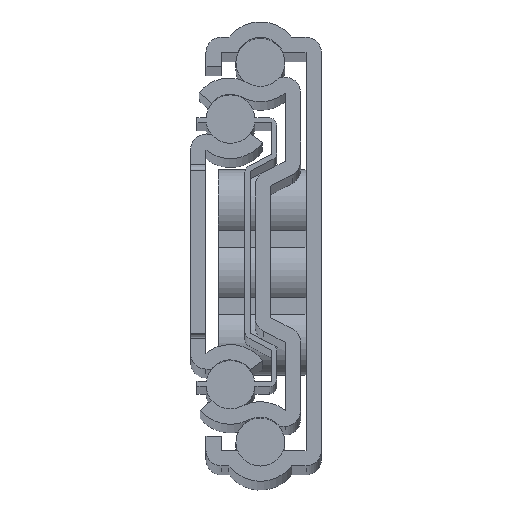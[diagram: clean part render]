
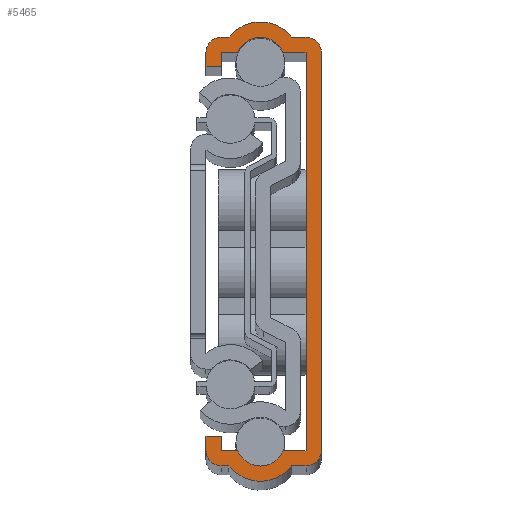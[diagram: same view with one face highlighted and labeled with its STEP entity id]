
A CAD part, top view. The second image highlights one B-rep face of the part: STEP entity #5465.
In plain terms, the highlighted planar face has unit normal (0, 0, 1).
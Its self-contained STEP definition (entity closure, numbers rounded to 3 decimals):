
#215=CIRCLE('',#5840,2.381);
#216=CIRCLE('',#5848,1.488);
#217=CIRCLE('',#5851,3.869);
#218=CIRCLE('',#5854,1.488);
#219=CIRCLE('',#5859,3.869);
#220=CIRCLE('',#5862,1.488);
#221=CIRCLE('',#5866,2.381);
#222=CIRCLE('',#5871,1.488);
#591=FACE_OUTER_BOUND('',#919,.T.);
#919=EDGE_LOOP('',(#4352,#4353,#4354,#4355,#4356,#4357,#4358,#4359,#4360,
#4361,#4362,#4363,#4364,#4365,#4366,#4367,#4368,#4369,#4370,#4371,#4372,
#4373,#4374,#4375));
#1342=LINE('',#8439,#1905);
#1346=LINE('',#8448,#1909);
#1350=LINE('',#8456,#1913);
#1353=LINE('',#8462,#1916);
#1356=LINE('',#8467,#1919);
#1357=LINE('',#8470,#1920);
#1362=LINE('',#8480,#1925);
#1365=LINE('',#8488,#1928);
#1368=LINE('',#8496,#1931);
#1369=LINE('',#8499,#1932);
#1372=LINE('',#8505,#1935);
#1375=LINE('',#8513,#1938);
#1377=LINE('',#8518,#1940);
#1378=LINE('',#8521,#1941);
#1381=LINE('',#8529,#1944);
#1384=LINE('',#8533,#1947);
#1905=VECTOR('',#6824,2.23);
#1909=VECTOR('',#6834,1.59);
#1913=VECTOR('',#6842,1.491);
#1916=VECTOR('',#6847,1.488);
#1919=VECTOR('',#6852,1.389);
#1920=VECTOR('',#6855,1.389);
#1925=VECTOR('',#6866,0.748);
#1928=VECTOR('',#6875,1.387);
#1931=VECTOR('',#6884,38.693);
#1932=VECTOR('',#6887,38.693);
#1935=VECTOR('',#6892,0.748);
#1938=VECTOR('',#6901,1.387);
#1940=VECTOR('',#6909,1.408);
#1941=VECTOR('',#6912,2.23);
#1944=VECTOR('',#6921,1.593);
#1947=VECTOR('',#6926,1.37);
#2467=VERTEX_POINT('',#8436);
#2468=VERTEX_POINT('',#8438);
#2469=VERTEX_POINT('',#8442);
#2470=VERTEX_POINT('',#8446);
#2471=VERTEX_POINT('',#8453);
#2472=VERTEX_POINT('',#8455);
#2473=VERTEX_POINT('',#8459);
#2474=VERTEX_POINT('',#8461);
#2475=VERTEX_POINT('',#8465);
#2476=VERTEX_POINT('',#8469);
#2477=VERTEX_POINT('',#8474);
#2478=VERTEX_POINT('',#8478);
#2479=VERTEX_POINT('',#8482);
#2480=VERTEX_POINT('',#8486);
#2481=VERTEX_POINT('',#8490);
#2482=VERTEX_POINT('',#8494);
#2483=VERTEX_POINT('',#8498);
#2484=VERTEX_POINT('',#8502);
#2485=VERTEX_POINT('',#8504);
#2486=VERTEX_POINT('',#8508);
#2487=VERTEX_POINT('',#8512);
#2488=VERTEX_POINT('',#8520);
#2489=VERTEX_POINT('',#8524);
#2490=VERTEX_POINT('',#8528);
#3114=EDGE_CURVE('',#2468,#2467,#1342,.T.);
#3117=EDGE_CURVE('',#2467,#2469,#215,.T.);
#3119=EDGE_CURVE('',#2469,#2470,#1346,.T.);
#3123=EDGE_CURVE('',#2472,#2471,#1350,.T.);
#3126=EDGE_CURVE('',#2474,#2473,#1353,.T.);
#3129=EDGE_CURVE('',#2471,#2475,#1356,.T.);
#3130=EDGE_CURVE('',#2476,#2474,#1357,.T.);
#3134=EDGE_CURVE('',#2475,#2477,#216,.T.);
#3136=EDGE_CURVE('',#2477,#2478,#1362,.T.);
#3138=EDGE_CURVE('',#2478,#2479,#217,.T.);
#3140=EDGE_CURVE('',#2479,#2480,#1365,.T.);
#3142=EDGE_CURVE('',#2480,#2481,#218,.T.);
#3144=EDGE_CURVE('',#2481,#2482,#1368,.T.);
#3145=EDGE_CURVE('',#2483,#2468,#1369,.T.);
#3148=EDGE_CURVE('',#2485,#2484,#1372,.T.);
#3150=EDGE_CURVE('',#2486,#2485,#219,.T.);
#3152=EDGE_CURVE('',#2487,#2486,#1375,.T.);
#3154=EDGE_CURVE('',#2482,#2487,#220,.T.);
#3155=EDGE_CURVE('',#2470,#2472,#1377,.T.);
#3156=EDGE_CURVE('',#2488,#2483,#1378,.T.);
#3158=EDGE_CURVE('',#2489,#2488,#221,.T.);
#3160=EDGE_CURVE('',#2490,#2489,#1381,.T.);
#3163=EDGE_CURVE('',#2473,#2490,#1384,.T.);
#3164=EDGE_CURVE('',#2484,#2476,#222,.T.);
#4352=ORIENTED_EDGE('',*,*,#3164,.T.);
#4353=ORIENTED_EDGE('',*,*,#3130,.T.);
#4354=ORIENTED_EDGE('',*,*,#3126,.T.);
#4355=ORIENTED_EDGE('',*,*,#3163,.T.);
#4356=ORIENTED_EDGE('',*,*,#3160,.T.);
#4357=ORIENTED_EDGE('',*,*,#3158,.T.);
#4358=ORIENTED_EDGE('',*,*,#3156,.T.);
#4359=ORIENTED_EDGE('',*,*,#3145,.T.);
#4360=ORIENTED_EDGE('',*,*,#3114,.T.);
#4361=ORIENTED_EDGE('',*,*,#3117,.T.);
#4362=ORIENTED_EDGE('',*,*,#3119,.T.);
#4363=ORIENTED_EDGE('',*,*,#3155,.T.);
#4364=ORIENTED_EDGE('',*,*,#3123,.T.);
#4365=ORIENTED_EDGE('',*,*,#3129,.T.);
#4366=ORIENTED_EDGE('',*,*,#3134,.T.);
#4367=ORIENTED_EDGE('',*,*,#3136,.T.);
#4368=ORIENTED_EDGE('',*,*,#3138,.T.);
#4369=ORIENTED_EDGE('',*,*,#3140,.T.);
#4370=ORIENTED_EDGE('',*,*,#3142,.T.);
#4371=ORIENTED_EDGE('',*,*,#3144,.T.);
#4372=ORIENTED_EDGE('',*,*,#3154,.T.);
#4373=ORIENTED_EDGE('',*,*,#3152,.T.);
#4374=ORIENTED_EDGE('',*,*,#3150,.T.);
#4375=ORIENTED_EDGE('',*,*,#3148,.T.);
#5241=PLANE('',#5872);
#5465=ADVANCED_FACE('',(#591),#5241,.T.);
#5840=AXIS2_PLACEMENT_3D('',#8444,#6829,#6830);
#5848=AXIS2_PLACEMENT_3D('',#8476,#6861,#6862);
#5851=AXIS2_PLACEMENT_3D('',#8484,#6870,#6871);
#5854=AXIS2_PLACEMENT_3D('',#8492,#6879,#6880);
#5859=AXIS2_PLACEMENT_3D('',#8509,#6896,#6897);
#5862=AXIS2_PLACEMENT_3D('',#8516,#6905,#6906);
#5866=AXIS2_PLACEMENT_3D('',#8525,#6916,#6917);
#5871=AXIS2_PLACEMENT_3D('',#8536,#6931,#6932);
#5872=AXIS2_PLACEMENT_3D('',#8537,#6933,#6934);
#6824=DIRECTION('',(-1.,0.,0.));
#6829=DIRECTION('center_axis',(0.,0.,-1.));
#6830=DIRECTION('ref_axis',(-1.,0.,0.));
#6834=DIRECTION('',(-1.,0.,0.));
#6842=DIRECTION('',(-1.,0.,0.));
#6847=DIRECTION('',(1.,0.,0.));
#6852=DIRECTION('',(0.,-1.,0.));
#6855=DIRECTION('',(0.,-1.,0.));
#6861=DIRECTION('center_axis',(0.,0.,1.));
#6862=DIRECTION('ref_axis',(-1.,0.,0.));
#6866=DIRECTION('',(1.,0.,0.));
#6870=DIRECTION('center_axis',(0.,0.,1.));
#6871=DIRECTION('ref_axis',(-0.788,-0.615,0.));
#6875=DIRECTION('',(1.,0.,0.));
#6879=DIRECTION('center_axis',(0.,0.,1.));
#6880=DIRECTION('ref_axis',(0.,-1.,0.));
#6884=DIRECTION('',(0.,1.,0.));
#6887=DIRECTION('',(0.,-1.,0.));
#6892=DIRECTION('',(-1.,0.,0.));
#6896=DIRECTION('center_axis',(0.,0.,1.));
#6897=DIRECTION('ref_axis',(0.788,0.615,0.));
#6901=DIRECTION('',(-1.,0.,0.));
#6905=DIRECTION('center_axis',(0.,0.,1.));
#6906=DIRECTION('ref_axis',(1.,0.,0.));
#6909=DIRECTION('',(0.,1.,0.));
#6912=DIRECTION('',(1.,0.,0.));
#6916=DIRECTION('center_axis',(0.,0.,-1.));
#6917=DIRECTION('ref_axis',(-1.,0.,0.));
#6921=DIRECTION('',(1.,0.,0.));
#6926=DIRECTION('',(0.,1.,0.));
#6931=DIRECTION('center_axis',(0.,0.,1.));
#6932=DIRECTION('ref_axis',(0.,1.,0.));
#6933=DIRECTION('center_axis',(0.,0.,1.));
#6934=DIRECTION('ref_axis',(1.,0.,0.));
#8436=CARTESIAN_POINT('',(8.984,-19.365,250.));
#8438=CARTESIAN_POINT('',(11.213,-19.365,250.));
#8439=CARTESIAN_POINT('',(11.213,-19.365,250.));
#8442=CARTESIAN_POINT('',(4.569,-19.365,250.));
#8444=CARTESIAN_POINT('Origin',(6.776,-18.472,250.));
#8446=CARTESIAN_POINT('',(2.979,-19.365,250.));
#8448=CARTESIAN_POINT('',(4.569,-19.365,250.));
#8453=CARTESIAN_POINT('',(1.488,-17.957,250.));
#8455=CARTESIAN_POINT('',(2.979,-17.957,250.));
#8456=CARTESIAN_POINT('',(2.979,-17.957,250.));
#8459=CARTESIAN_POINT('',(2.976,17.957,250.));
#8461=CARTESIAN_POINT('',(1.488,17.957,250.));
#8462=CARTESIAN_POINT('',(1.488,17.957,250.));
#8465=CARTESIAN_POINT('',(1.488,-19.346,250.));
#8467=CARTESIAN_POINT('',(1.488,-17.957,250.));
#8469=CARTESIAN_POINT('',(1.488,19.346,250.));
#8470=CARTESIAN_POINT('',(1.488,19.346,250.));
#8474=CARTESIAN_POINT('',(2.976,-20.835,250.));
#8476=CARTESIAN_POINT('Origin',(2.976,-19.346,250.));
#8478=CARTESIAN_POINT('',(3.724,-20.835,250.));
#8480=CARTESIAN_POINT('',(2.976,-20.835,250.));
#8482=CARTESIAN_POINT('',(9.823,-20.835,250.));
#8484=CARTESIAN_POINT('Origin',(6.774,-18.454,250.));
#8486=CARTESIAN_POINT('',(11.211,-20.835,250.));
#8488=CARTESIAN_POINT('',(9.823,-20.835,250.));
#8490=CARTESIAN_POINT('',(12.699,-19.346,250.));
#8492=CARTESIAN_POINT('Origin',(11.211,-19.346,250.));
#8494=CARTESIAN_POINT('',(12.699,19.346,250.));
#8496=CARTESIAN_POINT('',(12.699,-19.346,250.));
#8498=CARTESIAN_POINT('',(11.213,19.328,250.));
#8499=CARTESIAN_POINT('',(11.213,19.328,250.));
#8502=CARTESIAN_POINT('',(2.976,20.835,250.));
#8504=CARTESIAN_POINT('',(3.724,20.835,250.));
#8505=CARTESIAN_POINT('',(3.724,20.835,250.));
#8508=CARTESIAN_POINT('',(9.823,20.835,250.));
#8509=CARTESIAN_POINT('Origin',(6.774,18.454,250.));
#8512=CARTESIAN_POINT('',(11.211,20.835,250.));
#8513=CARTESIAN_POINT('',(11.211,20.835,250.));
#8516=CARTESIAN_POINT('Origin',(11.211,19.346,250.));
#8518=CARTESIAN_POINT('',(2.979,-19.365,250.));
#8520=CARTESIAN_POINT('',(8.984,19.328,250.));
#8521=CARTESIAN_POINT('',(8.984,19.328,250.));
#8524=CARTESIAN_POINT('',(4.569,19.328,250.));
#8525=CARTESIAN_POINT('Origin',(6.776,18.435,250.));
#8528=CARTESIAN_POINT('',(2.976,19.328,250.));
#8529=CARTESIAN_POINT('',(2.976,19.328,250.));
#8533=CARTESIAN_POINT('',(2.976,17.957,250.));
#8536=CARTESIAN_POINT('Origin',(2.976,19.346,250.));
#8537=CARTESIAN_POINT('Origin',(9.802,-0.014,250.));
